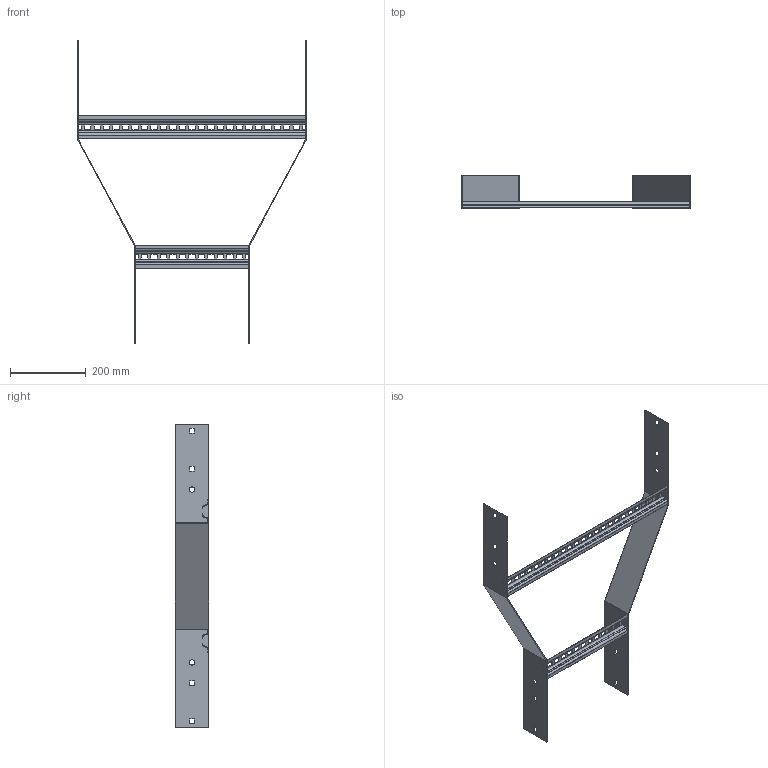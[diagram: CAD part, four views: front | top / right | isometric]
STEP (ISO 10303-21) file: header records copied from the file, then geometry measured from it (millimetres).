
FILE_DESCRIPTION (( 'STEP AP203' ), '1' );
FILE_NAME ('N2 SR600300.STEP', '2024-08-27T22:25:32', ( '' ), ( '' ), 'SwSTEP 2.0', 'SolidWorks 2023', '' );
FILE_SCHEMA (( 'CONFIG_CONTROL_DESIGN' ));
Length unit declared in the file: millimetre
Products named in the file (4): Ladder Rung_Ladder Rung -  300mm; N2 Reducer side plate_SR300x600; Ladder Rung_Ladder Rung -  600mm; N2 SR600300
Assembly tree (4 placements, depth 2):
  N2 SR600300
    N2 Reducer side plate_SR300x600  x2
    Ladder Rung_Ladder Rung -  300mm
    Ladder Rung_Ladder Rung -  600mm
Bounding box: 604 x 87 x 800 mm (x, y, z)
Volume: 383983.4 mm3; surface area: 423122.4 mm2
Topology: 4 solids, 4 shells, 312 faces, 816 edges, 512 vertices
Faces by surface type: plane 280, cylinder 32
Entity records: 8710 total; most frequent: CARTESIAN_POINT 1437, ORIENTED_EDGE 1424, DIRECTION 1314, EDGE_CURVE 712, VECTOR 664, LINE 664, VERTEX_POINT 448, EDGE_LOOP 350
